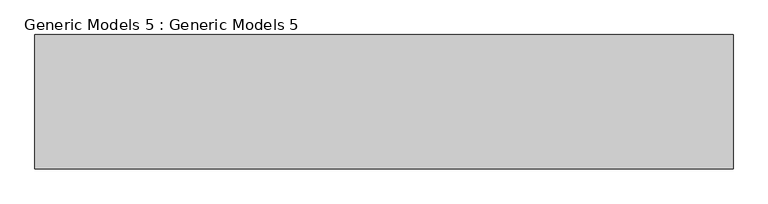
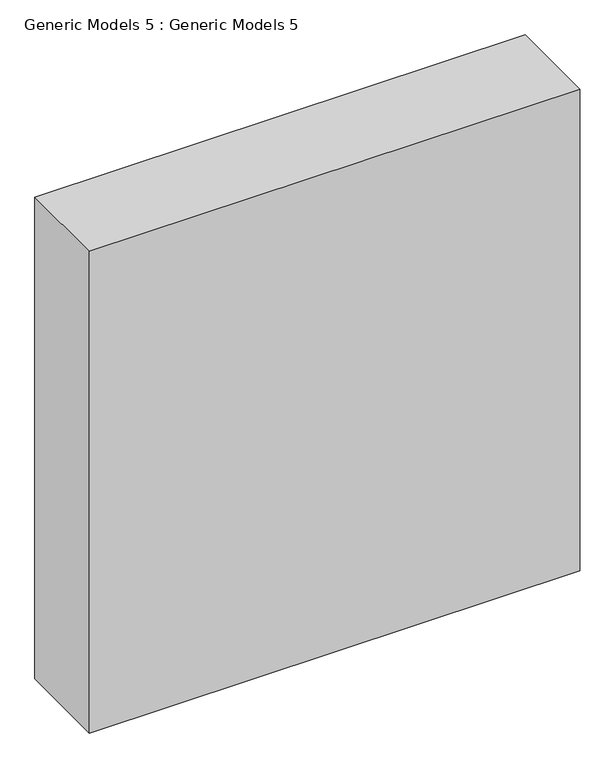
"""IFC4 building model written with IfcOpenShell, lengths in millimetres: proxy geometry, Generic Models 5 : Generic Models 5."""

from ifc_helpers import new_model, si_unit, point, frame, frame_2d, origin, place, context, project, spatial, polyline, circle_curve, trimmed, segment, composite_curve, outline, extrude, faceted_brep, source, transform, mapped, element, save


def generic_models_5_generic_models_5_7c13f3b2(model_context):
    return source(origin(), model_context, "Body", "SolidModel", [
        extrude(outline(composite_curve([segment(trimmed(circle_curve(frame_2d((-7917.9040425, 2202.5)), 2.5), [point((-7920.4040425, 2202.5))], [point((-7915.4040425, 2202.5))], False, "CARTESIAN"), True, "CONTINUOUS"), segment(trimmed(circle_curve(frame_2d((-7905.4040425, 2202.5)), 10.0), [point((-7915.4040425, 2202.5))], [point((-7895.4040425, 2202.5))], True, "CARTESIAN"), True, "CONTINUOUS"), segment(trimmed(circle_curve(frame_2d((-7892.9040425, 2202.5)), 2.5), [point((-7895.4040425, 2202.5))], [point((-7890.4040425, 2202.5))], False, "CARTESIAN"), True, "CONTINUOUS"), segment(trimmed(circle_curve(frame_2d((-7905.4040425, 2202.5)), 15.0), [point((-7890.4040425, 2202.5))], [point((-7920.4040425, 2202.5))], False, "CARTESIAN"), True, "CONTINUOUS")], self_intersect=False)), frame((2533.8449565, 0.0, 0.0), z_axis=(1.0, 0.0, 0.0), x_axis=(0.0, 1.0, 0.0)), (0.0, 0.0, 1.0), 15.0),
        extrude(outline(composite_curve([segment(trimmed(circle_curve(frame_2d((-7905.4040425, 2202.5)), 10.0), [point((-7905.4040425, 2192.5))], [point((-7905.4040425, 2212.5))], False, "CARTESIAN"), True, "CONTINUOUS"), segment(trimmed(circle_curve(frame_2d((-7905.4040425, 2202.5)), 10.0), [point((-7905.4040425, 2212.5))], [point((-7905.4040425, 2192.5))], False, "CARTESIAN"), True, "CONTINUOUS")], self_intersect=False)), frame((2533.8449565, 0.0, 0.0), z_axis=(1.0, 0.0, 0.0), x_axis=(0.0, 1.0, 0.0)), (0.0, 0.0, 1.0), 1536.0),
        extrude(outline(composite_curve([segment(trimmed(circle_curve(frame_2d((-7917.9040425, 2202.5)), 2.5), [point((-7920.4040425, 2202.5))], [point((-7915.4040425, 2202.5))], False, "CARTESIAN"), True, "CONTINUOUS"), segment(trimmed(circle_curve(frame_2d((-7905.4040425, 2202.5)), 10.0), [point((-7915.4040425, 2202.5))], [point((-7895.4040425, 2202.5))], True, "CARTESIAN"), True, "CONTINUOUS"), segment(trimmed(circle_curve(frame_2d((-7892.9040425, 2202.5)), 2.5), [point((-7895.4040425, 2202.5))], [point((-7890.4040425, 2202.5))], False, "CARTESIAN"), True, "CONTINUOUS"), segment(trimmed(circle_curve(frame_2d((-7905.4040425, 2202.5)), 15.0), [point((-7890.4040425, 2202.5))], [point((-7920.4040425, 2202.5))], False, "CARTESIAN"), True, "CONTINUOUS")], self_intersect=False)), frame((4054.8449565, 0.0, 0.0), z_axis=(1.0, 0.0, 0.0), x_axis=(0.0, 1.0, 0.0)), (0.0, 0.0, 1.0), 15.0),
        extrude(outline(polyline([(4085.8449565, -7665.4040425), (4585.8449565, -7665.4040425), (4585.8449565, -8145.4040425), (4085.8449565, -8145.4040425), (4085.8449565, -7665.4040425)])), frame((0.0, 0.0, 341.5), z_axis=(0.0, 0.0, 1.0), x_axis=(1.0, 0.0, 0.0)), (0.0, 0.0, 1.0), 16.0),
        extrude(outline(polyline([(4085.8449565, -7665.4040425), (4585.8449565, -7665.4040425), (4585.8449565, -8145.4040425), (4085.8449565, -8145.4040425), (4085.8449565, -7665.4040425)])), frame((0.0, 0.0, 675.0), z_axis=(0.0, 0.0, 1.0), x_axis=(1.0, 0.0, 0.0)), (0.0, 0.0, 1.0), 16.0),
        extrude(outline(polyline([(4085.8449565, -7665.4040425), (4585.8449565, -7665.4040425), (4585.8449565, -8145.4040425), (4085.8449565, -8145.4040425), (4085.8449565, -7665.4040425)])), frame((0.0, 0.0, 1008.5), z_axis=(0.0, 0.0, 1.0), x_axis=(1.0, 0.0, 0.0)), (0.0, 0.0, 1.0), 16.0),
        extrude(outline(polyline([(4085.8449565, -7665.4040425), (4585.8449565, -7665.4040425), (4585.8449565, -8145.4040425), (4085.8449565, -8145.4040425), (4085.8449565, -7665.4040425)])), frame((0.0, 0.0, 1342.0), z_axis=(0.0, 0.0, 1.0), x_axis=(1.0, 0.0, 0.0)), (0.0, 0.0, 1.0), 16.0),
        extrude(outline(polyline([(4085.8449565, -7665.4040425), (4585.8449565, -7665.4040425), (4585.8449565, -8145.4040425), (4085.8449565, -8145.4040425), (4085.8449565, -7665.4040425)])), frame((0.0, 0.0, 1675.5), z_axis=(0.0, 0.0, 1.0), x_axis=(1.0, 0.0, 0.0)), (0.0, 0.0, 1.0), 16.0),
        extrude(outline(polyline([(4085.8449565, -7665.4040425), (4585.8449565, -7665.4040425), (4585.8449565, -8145.4040425), (4085.8449565, -8145.4040425), (4085.8449565, -7665.4040425)])), frame((0.0, 0.0, 2009.0), z_axis=(0.0, 0.0, 1.0), x_axis=(1.0, 0.0, 0.0)), (0.0, 0.0, 1.0), 16.0),
        extrude(outline(polyline([(4085.8449565, -7665.4040425), (4585.8449565, -7665.4040425), (4585.8449565, -8145.4040425), (4085.8449565, -8145.4040425), (4085.8449565, -7665.4040425)])), frame((0.0, 0.0, 2342.5), z_axis=(0.0, 0.0, 1.0), x_axis=(1.0, 0.0, 0.0)), (0.0, 0.0, 1.0), 16.0),
        extrude(outline(polyline([(2017.8449565, -7665.4040425), (2517.8449565, -7665.4040425), (2517.8449565, -8145.4040425), (2017.8449565, -8145.4040425), (2017.8449565, -7665.4040425)])), frame((0.0, 0.0, 341.5), z_axis=(0.0, 0.0, 1.0), x_axis=(1.0, 0.0, 0.0)), (0.0, 0.0, 1.0), 16.0),
        extrude(outline(polyline([(2017.8449565, -7665.4040425), (2517.8449565, -7665.4040425), (2517.8449565, -8145.4040425), (2017.8449565, -8145.4040425), (2017.8449565, -7665.4040425)])), frame((0.0, 0.0, 675.0), z_axis=(0.0, 0.0, 1.0), x_axis=(1.0, 0.0, 0.0)), (0.0, 0.0, 1.0), 16.0),
        extrude(outline(polyline([(2017.8449565, -7665.4040425), (2517.8449565, -7665.4040425), (2517.8449565, -8145.4040425), (2017.8449565, -8145.4040425), (2017.8449565, -7665.4040425)])), frame((0.0, 0.0, 1008.5), z_axis=(0.0, 0.0, 1.0), x_axis=(1.0, 0.0, 0.0)), (0.0, 0.0, 1.0), 16.0),
        extrude(outline(polyline([(2017.8449565, -7665.4040425), (2517.8449565, -7665.4040425), (2517.8449565, -8145.4040425), (2017.8449565, -8145.4040425), (2017.8449565, -7665.4040425)])), frame((0.0, 0.0, 1342.0), z_axis=(0.0, 0.0, 1.0), x_axis=(1.0, 0.0, 0.0)), (0.0, 0.0, 1.0), 16.0),
        extrude(outline(polyline([(2017.8449565, -7665.4040425), (2517.8449565, -7665.4040425), (2517.8449565, -8145.4040425), (2017.8449565, -8145.4040425), (2017.8449565, -7665.4040425)])), frame((0.0, 0.0, 1675.5), z_axis=(0.0, 0.0, 1.0), x_axis=(1.0, 0.0, 0.0)), (0.0, 0.0, 1.0), 16.0),
        extrude(outline(polyline([(2017.8449565, -7665.4040425), (2517.8449565, -7665.4040425), (2517.8449565, -8145.4040425), (2017.8449565, -8145.4040425), (2017.8449565, -7665.4040425)])), frame((0.0, 0.0, 2009.0), z_axis=(0.0, 0.0, 1.0), x_axis=(1.0, 0.0, 0.0)), (0.0, 0.0, 1.0), 16.0),
        extrude(outline(polyline([(2017.8449565, -7665.4040425), (2517.8449565, -7665.4040425), (2517.8449565, -8145.4040425), (2017.8449565, -8145.4040425), (2017.8449565, -7665.4040425)])), frame((0.0, 0.0, 2342.5), z_axis=(0.0, 0.0, 1.0), x_axis=(1.0, 0.0, 0.0)), (0.0, 0.0, 1.0), 16.0),
        extrude(outline(polyline([(2533.8449565, -7665.4040425), (4069.8449565, -7665.4040425), (4069.8449565, -8145.4040425), (2533.8449565, -8145.4040425), (2533.8449565, -7665.4040425)])), frame((0.0, 0.0, 2342.5), z_axis=(0.0, 0.0, 1.0), x_axis=(1.0, 0.0, 0.0)), (0.0, 0.0, 1.0), 16.0),
        faceted_brep([(4601.8449565, -7665.4040425, 2700.0), (4601.8449565, -7665.4040425, 0.0), (2001.8449565, -7665.4040425, 0.0), (2001.8449565, -7665.4040425, 2700.0), (4085.8449565, -7665.4040425, 2684.0), (4085.8449565, -7665.4040425, 16.0), (4585.8449565, -7665.4040425, 16.0), (4585.8449565, -7665.4040425, 2684.0), (2017.8449565, -7665.4040425, 16.0), (2517.8449565, -7665.4040425, 16.0), (2517.8449565, -7665.4040425, 2684.0), (2017.8449565, -7665.4040425, 2684.0), (2533.8449565, -7665.4040425, 16.0), (4069.8449565, -7665.4040425, 16.0), (4069.8449565, -7665.4040425, 2684.0), (2533.8449565, -7665.4040425, 2684.0), (4601.8449565, -8165.4040425, 2700.0), (2001.8449565, -8165.4040425, 2700.0), (2001.8449565, -8165.4040425, 0.0), (4601.8449565, -8165.4040425, 0.0), (4085.8449565, -8145.4040425, 2684.0), (4585.8449565, -8145.4040425, 2684.0), (4585.8449565, -8145.4040425, 16.0), (4085.8449565, -8145.4040425, 16.0), (2017.8449565, -8145.4040425, 16.0), (2017.8449565, -8145.4040425, 2684.0), (2517.8449565, -8145.4040425, 2684.0), (2517.8449565, -8145.4040425, 16.0), (4069.8449565, -8145.4040425, 2684.0), (4069.8449565, -8145.4040425, 16.0), (2533.8449565, -8145.4040425, 16.0), (2533.8449565, -8145.4040425, 2684.0), (2533.8449565, -7685.4040425, 16.0), (4069.8449565, -7685.4040425, 16.0), (4069.8449565, -7735.4040425, 16.0), (2533.8449565, -7735.4040425, 16.0), (4069.8449565, -7685.4040425, 2684.0), (4069.8449565, -7735.4040425, 2684.0), (2533.8449565, -7685.4040425, 2684.0), (2533.8449565, -7735.4040425, 2684.0), (2531.8449565, -7735.4040425, 2686.0), (2531.8449565, -7735.4040425, 14.0), (2531.8449565, -7685.4040425, 14.0), (2531.8449565, -7685.4040425, 2686.0), (4071.8449565, -7735.4040425, 14.0), (4071.8449565, -7685.4040425, 14.0), (4071.8449565, -7735.4040425, 2686.0), (4071.8449565, -7685.4040425, 2686.0)], [[[0, 1, 2, 3], [4, 5, 6, 7], [8, 9, 10, 11], [12, 13, 14, 15]], [[16, 17, 18, 19]], [[1, 0, 16, 19]], [[2, 1, 19, 18]], [[3, 2, 18, 17]], [[0, 3, 17, 16]], [[20, 21, 22, 23]], [[24, 25, 26, 27]], [[28, 29, 30, 31]], [[20, 23, 5, 4]], [[23, 22, 6, 5]], [[22, 21, 7, 6]], [[21, 20, 4, 7]], [[24, 27, 9, 8]], [[26, 25, 11, 10]], [[25, 24, 8, 11]], [[13, 12, 32, 33]], [[30, 29, 34, 35]], [[14, 13, 33, 36]], [[29, 28, 37, 34]], [[15, 14, 36, 38]], [[28, 31, 39, 37]], [[27, 26, 10, 9]], [[12, 15, 38, 32]], [[31, 30, 35, 39]], [[40, 41, 42, 43]], [[42, 41, 44, 45]], [[45, 44, 46, 47]], [[43, 42, 45, 47], [33, 32, 38, 36]], [[40, 43, 47, 46]], [[41, 40, 46, 44], [35, 34, 37, 39]]]),
    ])


if __name__ == "__main__":
    model = new_model("IFC4")
    model_context = context("Model", 3, world=origin())
    ifc_project = project(units=[si_unit("LENGTHUNIT", "METRE", prefix="MILLI")], contexts=[model_context])
    site = spatial("IfcSite", under=ifc_project)
    building = spatial("IfcBuilding", under=site)
    placement = place(None, origin())
    generic_models_5_generic_models_5_shape = generic_models_5_generic_models_5_7c13f3b2(model_context)
    element("IfcBuildingElementProxy", 1, Name="Generic Models 5 : Generic Models 5", ObjectType="Generic Models 5 : Generic Models 5", at=placement, inside=building, context=model_context, shape_type="MappedRepresentation", body=[
        mapped(generic_models_5_generic_models_5_shape, transform((0.0, 0.0, 0.0), x_axis=(1.0, 0.0, 0.0), y_axis=(0.0, 1.0, 0.0), z_axis=(0.0, 0.0, 1.0))),
    ])
    save(model, "model.ifc")
